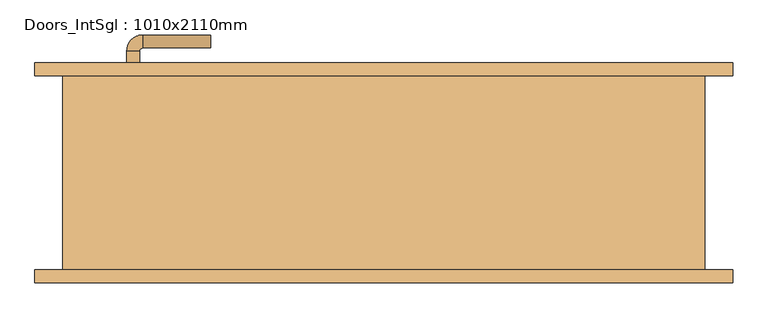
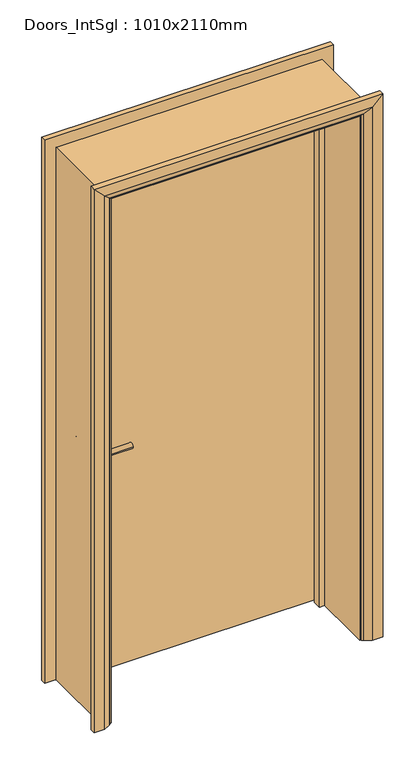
"""IFC4 building model written with IfcOpenShell, lengths in millimetres: door geometry, Doors_IntSgl : 1010x2110mm."""

import ifcopenshell
import ifcopenshell.guid

model = None  # the IFC model being written
_history = None  # IfcOwnerHistory: only IFC2X3 demands one
_inside = {}  # id of a spatial element -> (the spatial element, [elements in it])
_under = {}  # id of a project, library or spatial element -> (it, [spatial elements below it])
_declared = {}  # id of a project -> (the project, [libraries it declares])
_typed = {}  # id of a type object -> (the type object, [elements of that type])
_made_of = {}  # id of a material, layer set ... -> (it, [elements and type objects made of it])


def new_model(schema):
    """Start an empty IFC model of exactly this schema.

    Asked for "IFC4X3", IfcOpenShell would pick the latest addendum, in which some entities
    have other attributes; the version numbers below select the first issue.
    IFC2X3 requires an IfcOwnerHistory on every rooted entity: one is made here for all.
    """
    global model, _history
    if schema == "IFC4X3":
        model = ifcopenshell.file(schema_version=(4, 3, 0, 0))
    else:
        model = ifcopenshell.file(schema=schema)
    _inside.clear()
    _under.clear()
    _declared.clear()
    _typed.clear()
    _made_of.clear()
    _history = None
    if model.schema == "IFC2X3":
        org = make("IfcOrganization", Name="unknown")
        user = make(
            "IfcPersonAndOrganization",
            ThePerson=make("IfcPerson", FamilyName="unknown"),
            TheOrganization=org,
        )
        app = make(
            "IfcApplication",
            ApplicationDeveloper=org,
            Version="unknown",
            ApplicationFullName="unknown",
            ApplicationIdentifier="unknown",
        )
        _history = make(
            "IfcOwnerHistory",
            OwningUser=user,
            OwningApplication=app,
            ChangeAction="ADDED",
            CreationDate=0,
        )
    return model


def make(cls, **values):
    """One entity of the class cls with the attributes given. An attribute that is None is left unset."""
    return model.create_entity(
        cls, **{name: value for name, value in values.items() if value is not None}
    )


def rooted(cls, **values):
    """An entity with a GlobalId (a new one), such as an element, a storey or a relation."""
    return make(cls, GlobalId=ifcopenshell.guid.new(), OwnerHistory=_history, **values)


def si_unit(unit_type, name, prefix=None):
    """IfcSIUnit, for example si_unit("LENGTHUNIT", "METRE", prefix="MILLI")."""
    return make("IfcSIUnit", UnitType=unit_type, Prefix=prefix, Name=name)


def assignment(units):
    """IfcUnitAssignment: the units of a project."""
    return None if units is None else make("IfcUnitAssignment", Units=units)


def point(xyz):
    """IfcCartesianPoint."""
    return None if xyz is None else make("IfcCartesianPoint", Coordinates=xyz)


def direction(xyz):
    """IfcDirection."""
    return None if xyz is None else make("IfcDirection", DirectionRatios=xyz)


def frame(location, z_axis=None, x_axis=None):
    """IfcAxis2Placement3D, a coordinate frame: its origin and axes. An axis left out is left unset."""
    return make(
        "IfcAxis2Placement3D",
        Location=point(location),
        Axis=direction(z_axis),
        RefDirection=direction(x_axis),
    )


def frame_2d(location, x_axis=None):
    """IfcAxis2Placement2D, a coordinate frame in the plane: its origin and x axis."""
    return make(
        "IfcAxis2Placement2D", Location=point(location), RefDirection=direction(x_axis)
    )


def origin():
    """The frame at (0, 0, 0) with its axes left unset."""
    return frame((0.0, 0.0, 0.0))


def place(relative_to, where):
    """IfcLocalPlacement: puts the frame where relative to a parent placement (None: the world)."""
    return make(
        "IfcLocalPlacement", PlacementRelTo=relative_to, RelativePlacement=where
    )


def context(
    kind, dimensions, precision=None, world=None, true_north=None, identifier=None
):
    """IfcGeometricRepresentationContext, for example the 3D "Model" context."""
    return make(
        "IfcGeometricRepresentationContext",
        ContextIdentifier=identifier,
        ContextType=kind,
        CoordinateSpaceDimension=dimensions,
        Precision=precision,
        WorldCoordinateSystem=world,
        TrueNorth=true_north,
    )


def project(units=None, contexts=None):
    """IfcProject with its units and contexts."""
    return rooted(
        "IfcProject",
        Name="project",
        RepresentationContexts=contexts,
        UnitsInContext=assignment(units),
    )


def spatial(cls, under=None, at=None, **own):
    """A site, building, storey or space (cls), placed at a placement, below another one or the project."""
    s = rooted(cls, ObjectPlacement=at, **own)
    if under is not None:
        _under.setdefault(under.id(), (under, []))[1].append(s)
    return s


def polyline(points):
    """IfcPolyline through the points."""
    return make("IfcPolyline", Points=[point(p) for p in points])


def circle_curve(where, radius):
    """IfcCircle in the frame where."""
    return make("IfcCircle", Position=where, Radius=radius)


def ellipse_curve(where, semi_axis1, semi_axis2):
    """IfcEllipse in the frame where."""
    return make(
        "IfcEllipse", Position=where, SemiAxis1=semi_axis1, SemiAxis2=semi_axis2
    )


def trimmed(basis, trim1, trim2, sense, master):
    """IfcTrimmedCurve: the piece of a basis curve between two trims."""
    return make(
        "IfcTrimmedCurve",
        BasisCurve=basis,
        Trim1=trim1,
        Trim2=trim2,
        SenseAgreement=sense,
        MasterRepresentation=master,
    )


def segment(curve, same_sense, transition):
    """IfcCompositeCurveSegment."""
    return make(
        "IfcCompositeCurveSegment",
        Transition=transition,
        SameSense=same_sense,
        ParentCurve=curve,
    )


def composite_curve(segments, self_intersect=None):
    """IfcCompositeCurve: segments joined end to end."""
    return make("IfcCompositeCurve", Segments=segments, SelfIntersect=self_intersect)


def outline(outer, holes=None, kind="AREA"):
    """IfcArbitraryClosedProfileDef: a profile drawn as a closed curve; with holes, ...WithVoids."""
    if holes is None:
        return make("IfcArbitraryClosedProfileDef", ProfileType=kind, OuterCurve=outer)
    return make(
        "IfcArbitraryProfileDefWithVoids",
        ProfileType=kind,
        OuterCurve=outer,
        InnerCurves=holes,
    )


def extrude(swept, where, along, depth):
    """IfcExtrudedAreaSolid: the profile swept, set in the frame where, extruded along a direction by depth."""
    return make(
        "IfcExtrudedAreaSolid",
        SweptArea=swept,
        Position=where,
        ExtrudedDirection=direction(along),
        Depth=depth,
    )


def faces_of(points, faces, orient=None, outer=None):
    """IfcFace entities. A face is a list of loops; a loop is a list of indices into points, from 0.

    orient and outer hold one flag for each loop. By default every Orientation is true, the
    first loop of a face is its IfcFaceOuterBound and the others are IfcFaceBound.
    """
    made = []
    for i, loops in enumerate(faces):
        bounds = []
        for j, loop in enumerate(loops):
            is_outer = j == 0 if outer is None else outer[i][j]
            bounds.append(
                make(
                    "IfcFaceOuterBound" if is_outer else "IfcFaceBound",
                    Bound=make("IfcPolyLoop", Polygon=[points[k] for k in loop]),
                    Orientation=True if orient is None else orient[i][j],
                )
            )
        made.append(make("IfcFace", Bounds=bounds))
    return made


def faceted_brep(points, faces, orient=None, outer=None, voids=None):
    """IfcFacetedBrep: a solid bounded by flat faces; with voids (closed shells), ...WithVoids."""
    shared = [point(p) for p in points]
    hull = make("IfcClosedShell", CfsFaces=faces_of(shared, faces, orient, outer))
    if voids is None:
        return make("IfcFacetedBrep", Outer=hull)
    return make(
        "IfcFacetedBrepWithVoids",
        Outer=hull,
        Voids=[
            make(cls, CfsFaces=faces_of(shared, fs, o, b)) for cls, fs, o, b in voids
        ],
    )


def shape(context_of_items, identifier, shape_type, items):
    """IfcShapeRepresentation: the items that make up one representation, for example the "Body"."""
    return make(
        "IfcShapeRepresentation",
        ContextOfItems=context_of_items,
        RepresentationIdentifier=identifier,
        RepresentationType=shape_type,
        Items=items,
    )


def source(mapping_origin, context_of_items, identifier, shape_type, items):
    """IfcRepresentationMap: a shape defined once, which mapped items show again and again."""
    return make(
        "IfcRepresentationMap",
        MappingOrigin=mapping_origin,
        MappedRepresentation=shape(context_of_items, identifier, shape_type, items),
    )


def transform(
    local_origin,
    x_axis=None,
    y_axis=None,
    z_axis=None,
    scale=None,
    scale2=None,
    scale3=None,
    uniform=True,
):
    """IfcCartesianTransformationOperator3D, or its non-uniform kind. x_axis, y_axis, z_axis: its Axis1, 2, 3."""
    if uniform:
        return make(
            "IfcCartesianTransformationOperator3D",
            Axis1=direction(x_axis),
            Axis2=direction(y_axis),
            LocalOrigin=point(local_origin),
            Scale=scale,
            Axis3=direction(z_axis),
        )
    return make(
        "IfcCartesianTransformationOperator3DnonUniform",
        Axis1=direction(x_axis),
        Axis2=direction(y_axis),
        LocalOrigin=point(local_origin),
        Scale=scale,
        Axis3=direction(z_axis),
        Scale2=scale2,
        Scale3=scale3,
    )


def mapped(mapping_source, mapping_target):
    """IfcMappedItem: shows the shape of a source again, moved by a transform."""
    return make(
        "IfcMappedItem", MappingSource=mapping_source, MappingTarget=mapping_target
    )


def made_of(thing, what):
    """Note that an element or type object is made of a material, layer set ...; save() writes the relation."""
    if what is not None:
        _made_of.setdefault(what.id(), (what, []))[1].append(thing)
    return thing


def element(
    cls,
    number,
    at=None,
    inside=None,
    cuts=None,
    type_object=None,
    material=None,
    context=None,
    identifier="Body",
    shape_type=None,
    held_by="IfcProductDefinitionShape",
    body=None,
    shapes=None,
    **own,
):
    """One element of the class cls, such as IfcWall. Its Tag is "e" and its number.

    at: its placement. inside: the storey or other place that contains it. cuts: it is an
    opening in that element (IfcRelVoidsElement). A single representation is given by context,
    identifier, shape_type and body (its items); several are given by shapes. held_by: the class
    of the entity that holds the representations. save() writes the other relations.
    """
    e = rooted(cls, Tag="e%d" % number, ObjectPlacement=at, **own)
    if body is not None:
        shapes = [shape(context, identifier, shape_type, body)]
    if shapes is not None:
        e.Representation = make(held_by, Representations=shapes)
    if inside is not None:
        _inside.setdefault(inside.id(), (inside, []))[1].append(e)
    if cuts is not None:
        rooted(
            "IfcRelVoidsElement", RelatingBuildingElement=cuts, RelatedOpeningElement=e
        )
    if type_object is not None:
        _typed.setdefault(type_object.id(), (type_object, []))[1].append(e)
    return made_of(e, material)


def aggregate(whole, parts):
    """IfcRelAggregates: a whole, such as a stair, and the parts it consists of."""
    return rooted("IfcRelAggregates", RelatingObject=whole, RelatedObjects=parts)


def save(model, path):
    """Write the relations noted so far, then the file.

    IfcRelAggregates (storeys below a building ...), IfcRelContainedInSpatialStructure (elements
    in a storey), IfcRelDefinesByType, IfcRelAssociatesMaterial and IfcRelDeclares: one each for
    every whole, place, type object, material and project.
    """
    for whole, parts in _under.values():
        aggregate(whole, parts)
    for where, things in _inside.values():
        rooted(
            "IfcRelContainedInSpatialStructure",
            RelatedElements=things,
            RelatingStructure=where,
        )
    for kind, things in _typed.values():
        rooted("IfcRelDefinesByType", RelatedObjects=things, RelatingType=kind)
    for what, things in _made_of.values():
        rooted("IfcRelAssociatesMaterial", RelatedObjects=things, RelatingMaterial=what)
    for by, libraries in _declared.values():
        rooted("IfcRelDeclares", RelatingContext=by, RelatedDefinitions=libraries)
    model.write(path)


def plane_surface(at):
    """IfcPlane: the flat surface through the origin of the frame at, square to its z axis."""
    return make("IfcPlane", Position=at)


def cylinder_surface(at, radius):
    """IfcCylindricalSurface: all points at the distance radius from the z axis of the frame at."""
    return make("IfcCylindricalSurface", Position=at, Radius=radius)


def revolved_surface(curve, axis_point, axis_direction):
    """IfcSurfaceOfRevolution: the curve turned about the line through axis_point along axis_direction."""
    return make(
        "IfcSurfaceOfRevolution",
        SweptCurve=make("IfcArbitraryOpenProfileDef", ProfileType="CURVE", Curve=curve),
        AxisPosition=make("IfcAxis1Placement", Location=point(axis_point), Axis=direction(axis_direction)),
    )


def advanced_brep(points, edges, surfaces, faces):
    """IfcAdvancedBrep: a solid bounded by faces that lie on surfaces and meet in shared edges.

    An edge is (start, end): straight between two places in points (the first is 0);
    or (start, end, curve); or (start, end, curve, False) where it runs against its curve.
    A face is (place in surfaces, loops), or (place, loops, False) where it looks against
    its surface's normal. A loop lists edges by number (the first is 1), with a minus sign
    where the edge is run from its end to its start. The first loop is the outer one.
    """
    corners = [point(p) for p in points]
    vertices = [make("IfcVertexPoint", VertexGeometry=c) for c in corners]
    made = []
    for start, end, *more in edges:
        made.append(
            make(
                "IfcEdgeCurve",
                EdgeStart=vertices[start],
                EdgeEnd=vertices[end],
                EdgeGeometry=more[0] if more else make("IfcPolyline", Points=[corners[start], corners[end]]),
                SameSense=more[1] if len(more) > 1 else True,
            )
        )
    hull = []
    for where, loops, *sense in faces:
        bounds = []
        for j, loop in enumerate(loops):
            ring = [make("IfcOrientedEdge", EdgeElement=made[abs(k) - 1], Orientation=k > 0) for k in loop]
            bounds.append(
                make(
                    "IfcFaceOuterBound" if j == 0 else "IfcFaceBound",
                    Bound=make("IfcEdgeLoop", EdgeList=ring),
                    Orientation=True,
                )
            )
        hull.append(make("IfcAdvancedFace", Bounds=bounds, FaceSurface=surfaces[where], SameSense=sense[0] if sense else True))
    return make("IfcAdvancedBrep", Outer=make("IfcClosedShell", CfsFaces=hull))


def doors_intsgl_1010x2110mm_6139e3f5(model_context):
    return source(origin(), model_context, "Body", "SolidModel", [
        advanced_brep(
        [(-398.0, 104.0, 900.0), (-378.0, 104.0, 900.0), (-378.0, 74.0, 900.0), (-398.0, 74.0, 900.0), (-373.0, 69.0, 900.0), (-373.0, 49.0, 900.0), (-268.0, 49.0, 900.0), (-268.0, 69.0, 900.0)],
        [
            (0, 1, circle_curve(frame((-388.0, 104.0, 900.0), z_axis=(0.0, 1.0, 0.0), x_axis=(1.0, 0.0, 0.0)), 10.0)),
            (1, 0, circle_curve(frame((-388.0, 104.0, 900.0), z_axis=(0.0, 1.0, 0.0), x_axis=(1.0, 0.0, 0.0)), 10.0)),
            (1, 2),
            (2, 3, circle_curve(frame((-388.0, 74.0, 900.0), z_axis=(0.0, 1.0, 0.0), x_axis=(1.0, 0.0, 0.0)), 10.0)),
            (3, 0),
            (3, 2, circle_curve(frame((-388.0, 74.0, 900.0), z_axis=(0.0, 1.0, 0.0), x_axis=(1.0, 0.0, 0.0)), 10.0)),
            (4, 5, circle_curve(frame((-373.0, 59.0, 900.0), z_axis=(-1.0, 0.0, 0.0), x_axis=(0.0, 1.0, 0.0)), 10.0)),
            (5, 3, circle_curve(frame((-373.0, 74.0, 900.0), z_axis=(0.0, 0.0, -1.0), x_axis=(-1.0, 0.0, 0.0)), 25.0)),
            (2, 4, circle_curve(frame((-373.0, 74.0, 900.0), z_axis=(0.0, 0.0, 1.0), x_axis=(-1.0, 0.0, 0.0)), 5.0)),
            (5, 4, circle_curve(frame((-373.0, 59.0, 900.0), z_axis=(-1.0, 0.0, 0.0), x_axis=(0.0, 1.0, 0.0)), 10.0)),
            (6, 7, circle_curve(frame((-268.0, 59.0, 900.0), z_axis=(1.0, 0.0, 0.0), x_axis=(0.0, 1.0, 0.0)), 10.0)),
            (7, 6, circle_curve(frame((-268.0, 59.0, 900.0), z_axis=(1.0, 0.0, 0.0), x_axis=(0.0, 1.0, 0.0)), 10.0)),
            (4, 7),
            (6, 5),
        ],
        [
            plane_surface(frame((-388.0, 104.0, 900.0), z_axis=(0.0, 1.0, 0.0), x_axis=(0.0, 0.0, 1.0))),
            cylinder_surface(frame((-388.0, 104.0, 900.0), z_axis=(0.0, 1.0, 0.0), x_axis=(1.0, 0.0, 0.0)), 10.0),
            revolved_surface(trimmed(ellipse_curve(frame((-388.0, 74.0, 900.0), z_axis=(0.0, -1.0, 0.0), x_axis=(1.0, 0.0, 0.0)), 10.0, 10.0), [point((-398.0, 74.0, 900.0))], [point((-378.0, 74.0, 900.0))], True, "CARTESIAN"), (-373.0, 74.0, 900.0), (0.0, 0.0, -1.0)),
            revolved_surface(trimmed(ellipse_curve(frame((-388.0, 74.0, 900.0), z_axis=(0.0, -1.0, 0.0), x_axis=(1.0, 0.0, 0.0)), 10.0, 10.0), [point((-378.0, 74.0, 900.0))], [point((-398.0, 74.0, 900.0))], True, "CARTESIAN"), (-373.0, 74.0, 900.0), (0.0, 0.0, -1.0)),
            plane_surface(frame((-268.0, 59.0, 900.0), z_axis=(1.0, 0.0, 0.0), x_axis=(0.0, 0.0, 1.0))),
            cylinder_surface(frame((-373.0, 59.0, 900.0), z_axis=(-1.0, 0.0, 0.0), x_axis=(0.0, 1.0, 0.0)), 10.0),
        ],
        [
            (0, [[1, 2]]),
            (1, [[3, 4, 5, -2]]),
            (1, [[-5, 6, -3, -1]]),
            (2, [[7, 8, -4, 9]]),
            (3, [[10, -9, -6, -8]]),
            (4, [[11, 12]]),
            (5, [[13, -11, 14, -7]]),
            (5, [[-14, -12, -13, -10]]),
        ],
    ),
        extrude(outline(composite_curve([segment(trimmed(circle_curve(frame_2d((900.0, -390.5)), 30.0), [point((900.0, -420.5))], [point((900.0, -360.5))], False, "CARTESIAN"), True, "CONTINUOUS"), segment(trimmed(circle_curve(frame_2d((900.0, -390.5)), 30.0), [point((900.0, -360.5))], [point((900.0, -420.5))], False, "CARTESIAN"), True, "CONTINUOUS")], self_intersect=False)), frame((0.0, 104.0, 0.0), z_axis=(0.0, 1.0, 0.0), x_axis=(0.0, 0.0, 1.0)), (0.0, 0.0, 1.0), 8.0),
        advanced_brep(
        [(-398.0, 158.0, 900.0), (-378.0, 158.0, 900.0), (-398.0, 188.0, 900.0), (-378.0, 188.0, 900.0), (-373.0, 193.0, 900.0), (-373.0, 213.0, 900.0), (-268.0, 213.0, 900.0), (-268.0, 193.0, 900.0)],
        [
            (0, 1, circle_curve(frame((-388.0, 158.0, 900.0), z_axis=(0.0, -1.0, 0.0), x_axis=(1.0, 0.0, 0.0)), 10.0)),
            (1, 0, circle_curve(frame((-388.0, 158.0, 900.0), z_axis=(0.0, -1.0, 0.0), x_axis=(1.0, 0.0, 0.0)), 10.0)),
            (0, 2),
            (2, 3, circle_curve(frame((-388.0, 188.0, 900.0), z_axis=(0.0, -1.0, 0.0), x_axis=(1.0, 0.0, 0.0)), 10.0)),
            (3, 1),
            (3, 2, circle_curve(frame((-388.0, 188.0, 900.0), z_axis=(0.0, -1.0, 0.0), x_axis=(1.0, 0.0, 0.0)), 10.0)),
            (4, 3, circle_curve(frame((-373.0, 188.0, 900.0), z_axis=(0.0, 0.0, 1.0), x_axis=(-1.0, 0.0, 0.0)), 5.0)),
            (2, 5, circle_curve(frame((-373.0, 188.0, 900.0), z_axis=(0.0, 0.0, -1.0), x_axis=(-1.0, 0.0, 0.0)), 25.0)),
            (5, 4, circle_curve(frame((-373.0, 203.0, 900.0), z_axis=(-1.0, 0.0, 0.0), x_axis=(0.0, -1.0, 0.0)), 10.0)),
            (4, 5, circle_curve(frame((-373.0, 203.0, 900.0), z_axis=(-1.0, 0.0, 0.0), x_axis=(0.0, -1.0, 0.0)), 10.0)),
            (6, 7, circle_curve(frame((-268.0, 203.0, 900.0), z_axis=(1.0, 0.0, 0.0), x_axis=(0.0, -1.0, 0.0)), 10.0)),
            (7, 6, circle_curve(frame((-268.0, 203.0, 900.0), z_axis=(1.0, 0.0, 0.0), x_axis=(0.0, -1.0, 0.0)), 10.0)),
            (5, 6),
            (7, 4),
        ],
        [
            plane_surface(frame((-388.0, 158.0, 900.0), z_axis=(0.0, -1.0, 0.0), x_axis=(0.0, 0.0, 1.0))),
            cylinder_surface(frame((-388.0, 158.0, 900.0), z_axis=(0.0, -1.0, 0.0), x_axis=(1.0, 0.0, 0.0)), 10.0),
            revolved_surface(trimmed(ellipse_curve(frame((-388.0, 188.0, 900.0), z_axis=(0.0, -1.0, 0.0), x_axis=(1.0, 0.0, 0.0)), 10.0, 10.0), [point((-398.0, 188.0, 900.0))], [point((-378.0, 188.0, 900.0))], True, "CARTESIAN"), (-373.0, 188.0, 900.0), (0.0, 0.0, -1.0)),
            revolved_surface(trimmed(ellipse_curve(frame((-388.0, 188.0, 900.0), z_axis=(0.0, -1.0, 0.0), x_axis=(1.0, 0.0, 0.0)), 10.0, 10.0), [point((-378.0, 188.0, 900.0))], [point((-398.0, 188.0, 900.0))], True, "CARTESIAN"), (-373.0, 188.0, 900.0), (0.0, 0.0, -1.0)),
            plane_surface(frame((-268.0, 203.0, 900.0), z_axis=(1.0, 0.0, 0.0), x_axis=(0.0, 0.0, 1.0))),
            cylinder_surface(frame((-373.0, 203.0, 900.0), z_axis=(-1.0, 0.0, 0.0), x_axis=(0.0, -1.0, 0.0)), 10.0),
        ],
        [
            (0, [[1, 2]]),
            (1, [[-1, 3, 4, 5]]),
            (1, [[-2, -5, 6, -3]]),
            (2, [[7, -4, 8, 9]]),
            (3, [[-8, -6, -7, 10]]),
            (4, [[11, 12]]),
            (5, [[-9, 13, -12, 14]]),
            (5, [[-10, -14, -11, -13]]),
        ],
    ),
        extrude(outline(composite_curve([segment(trimmed(circle_curve(frame_2d((900.0, -390.5)), 30.0), [point((900.0, -420.5))], [point((900.0, -360.5))], False, "CARTESIAN"), True, "CONTINUOUS"), segment(trimmed(circle_curve(frame_2d((900.0, -390.5)), 30.0), [point((900.0, -360.5))], [point((900.0, -420.5))], False, "CARTESIAN"), True, "CONTINUOUS")], self_intersect=False)), frame((0.0, 150.0, 0.0), z_axis=(0.0, 1.0, 0.0), x_axis=(0.0, 0.0, 1.0)), (0.0, 0.0, 1.0), 8.0),
        extrude(outline(polyline([(463.0, 112.0), (-463.0, 112.0), (-463.0, 150.0), (463.0, 150.0), (463.0, 112.0)])), frame((0.0, 0.0, 8.0), z_axis=(0.0, 0.0, 1.0), x_axis=(1.0, 0.0, 0.0)), (0.0, 0.0, 1.0), 2060.0),
        advanced_brep(
        [(540.0, 170.0, 0.0), (540.0, 150.0, 0.0), (470.0, 150.0, 0.0), (474.0, 156.0, 0.0), (500.0, 170.0, 0.0), (540.0, 170.0, 2145.0), (540.0, 150.0, 2145.0), (-540.0, 150.0, 2145.0), (-540.0, 150.0, 0.0), (-470.0, 150.0, 0.0), (-470.0, 150.0, 2075.0), (470.0, 150.0, 2075.0), (474.0, 156.0, 2079.0), (500.0, 170.0, 2105.0), (-500.0, 170.0, 2105.0), (-500.0, 170.0, 0.0), (-540.0, 170.0, 0.0), (-540.0, 170.0, 2145.0), (-474.0, 156.0, 2079.0), (-474.0, 156.0, 0.0)],
        [
            (0, 1),
            (1, 2),
            (2, 3, circle_curve(frame((478.0, 149.0, 0.0), z_axis=(0.0, 0.0, -1.0), x_axis=(1.0, 0.0, 0.0)), 8.0622577)),
            (3, 4),
            (4, 0),
            (0, 5),
            (5, 6),
            (6, 1),
            (6, 7),
            (7, 8),
            (8, 9),
            (9, 10),
            (10, 11),
            (11, 2),
            (11, 12, ellipse_curve(frame((478.0, 149.0, 2083.0), z_axis=(0.7071067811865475, 0.0, -0.7071067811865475), x_axis=(-0.7071067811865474, 0.0, -0.7071067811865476)), 11.4017543, 8.0622577)),
            (12, 3),
            (12, 13),
            (13, 4),
            (13, 14),
            (14, 15),
            (15, 16),
            (16, 17),
            (17, 5),
            (17, 7),
            (10, 18, ellipse_curve(frame((-478.0, 149.0, 2083.0), z_axis=(0.7071067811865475, 0.0, 0.7071067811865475), x_axis=(0.7071067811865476, 0.0, -0.7071067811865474)), 11.4017543, 8.0622577)),
            (18, 12),
            (18, 14),
            (15, 19),
            (19, 9, circle_curve(frame((-478.0, 149.0, 0.0), z_axis=(0.0, 0.0, -1.0), x_axis=(-1.0, 0.0, 0.0)), 8.0622577)),
            (8, 16),
            (19, 18),
        ],
        [
            plane_surface(frame((470.0, 150.0, 0.0), z_axis=(0.0, 0.0, -1.0), x_axis=(0.0, -1.0, 0.0))),
            plane_surface(frame((540.0, 170.0, 0.0), z_axis=(1.0, 0.0, 0.0), x_axis=(0.0, 0.0, 1.0))),
            plane_surface(frame((540.0, 150.0, 0.0), z_axis=(0.0, -1.0, 0.0), x_axis=(0.0, 0.0, 1.0))),
            cylinder_surface(frame((478.0, 149.0, 0.0), z_axis=(0.0, 0.0, -1.0), x_axis=(1.0, 0.0, 0.0)), 8.0622577),
            plane_surface(frame((474.0, 156.0, 0.0), z_axis=(-0.4740998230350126, 0.880471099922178, 0.0), x_axis=(0.0, 0.0, 1.0))),
            plane_surface(frame((500.0, 170.0, 0.0), z_axis=(0.0, 1.0, 0.0), x_axis=(0.0, 0.0, 1.0))),
            plane_surface(frame((540.0, 170.0, 2145.0), z_axis=(0.0, 0.0, 1.0), x_axis=(-1.0, 0.0, 0.0))),
            cylinder_surface(frame((470.0, 149.0, 2083.0), z_axis=(1.0, 0.0, 0.0), x_axis=(0.0, 0.0, 1.0)), 8.0622577),
            plane_surface(frame((474.0, 156.0, 2079.0), z_axis=(0.0, 0.8804710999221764, -0.4740998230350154), x_axis=(-1.0, 0.0, 0.0))),
            plane_surface(frame((-470.0, 150.0, 0.0), z_axis=(0.0, 0.0, -1.0), x_axis=(0.0, -1.0, 0.0))),
            plane_surface(frame((-540.0, 170.0, 2145.0), z_axis=(-1.0, 0.0, 0.0), x_axis=(0.0, 0.0, -1.0))),
            cylinder_surface(frame((-478.0, 149.0, 2075.0), z_axis=(0.0, 0.0, 1.0), x_axis=(-1.0, 0.0, 0.0)), 8.0622577),
            plane_surface(frame((-474.0, 156.0, 2079.0), z_axis=(0.47409982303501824, 0.8804710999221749, 0.0), x_axis=(0.0, 0.0, -1.0))),
        ],
        [
            (0, [[1, 2, 3, 4, 5]]),
            (1, [[-1, 6, 7, 8]]),
            (2, [[-2, -8, 9, 10, 11, 12, 13, 14]]),
            (3, [[-3, -14, 15, 16]]),
            (4, [[-4, -16, 17, 18]]),
            (5, [[-5, -18, 19, 20, 21, 22, 23, -6]]),
            (6, [[-7, -23, 24, -9]]),
            (7, [[-15, -13, 25, 26]]),
            (8, [[-17, -26, 27, -19]]),
            (9, [[-21, 28, 29, -11, 30]]),
            (10, [[-24, -22, -30, -10]]),
            (11, [[-25, -12, -29, 31]]),
            (12, [[-27, -31, -28, -20]]),
        ],
    ),
        extrude(outline(polyline([(0.0, -465.0), (0.0, -446.0), (2051.0, -446.0), (2051.0, 446.0), (0.0, 446.0), (0.0, 465.0), (2070.0, 465.0), (2070.0, -465.0), (0.0, -465.0)])), frame((0.0, 78.0, 0.0), z_axis=(0.0, 1.0, 0.0), x_axis=(0.0, 0.0, 1.0)), (0.0, 0.0, 1.0), 32.0),
        advanced_brep(
        [(-540.0, -170.0, 0.0), (-540.0, -150.0, 0.0), (-470.0, -150.0, 0.0), (-474.0, -156.0, 0.0), (-500.0, -170.0, 0.0), (-540.0, -170.0, 2145.0), (-540.0, -150.0, 2145.0), (-470.0, -150.0, 2075.0), (-474.0, -156.0, 2079.0), (-500.0, -170.0, 2105.0), (540.0, -170.0, 2145.0), (540.0, -150.0, 2145.0), (470.0, -150.0, 2075.0), (474.0, -156.0, 2079.0), (500.0, -170.0, 2105.0), (540.0, -170.0, 0.0), (500.0, -170.0, 0.0), (474.0, -156.0, 0.0), (470.0, -150.0, 0.0), (540.0, -150.0, 0.0)],
        [
            (0, 1),
            (1, 2),
            (2, 3, circle_curve(frame((-478.0, -149.0, 0.0), z_axis=(0.0, 0.0, -1.0), x_axis=(-1.0, 0.0, 0.0)), 8.0622577)),
            (3, 4),
            (4, 0),
            (0, 5),
            (5, 6),
            (6, 1),
            (6, 7),
            (7, 2),
            (7, 8, ellipse_curve(frame((-478.0, -149.0, 2083.0), z_axis=(-0.7071067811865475, 0.0, -0.7071067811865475), x_axis=(0.7071067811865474, 0.0, -0.7071067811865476)), 11.4017543, 8.0622577)),
            (8, 3),
            (8, 9),
            (9, 4),
            (9, 5),
            (5, 10),
            (10, 11),
            (11, 6),
            (11, 12),
            (12, 7),
            (12, 13, ellipse_curve(frame((478.0, -149.0, 2083.0), z_axis=(-0.7071067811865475, 0.0, 0.7071067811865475), x_axis=(-0.7071067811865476, 0.0, -0.7071067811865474)), 11.4017543, 8.0622577)),
            (13, 8),
            (13, 14),
            (14, 9),
            (14, 10),
            (15, 16),
            (16, 17),
            (17, 18, circle_curve(frame((478.0, -149.0, 0.0), z_axis=(0.0, 0.0, -1.0), x_axis=(1.0, 0.0, 0.0)), 8.0622577)),
            (18, 19),
            (19, 15),
            (10, 15),
            (19, 11),
            (18, 12),
            (17, 13),
            (16, 14),
        ],
        [
            plane_surface(frame((-470.0, -222.8010989, 0.0), z_axis=(0.0, 0.0, -1.0), x_axis=(1.0, 0.0, 0.0))),
            plane_surface(frame((-540.0, -170.0, 0.0), z_axis=(-1.0, 0.0, 0.0), x_axis=(0.0, 0.0, 1.0))),
            plane_surface(frame((-540.0, -150.0, 0.0), z_axis=(0.0, 1.0, 0.0), x_axis=(0.0, 0.0, 1.0))),
            cylinder_surface(frame((-478.0, -149.0, 0.0), z_axis=(0.0, 0.0, -1.0), x_axis=(-1.0, 0.0, 0.0)), 8.0622577),
            plane_surface(frame((-474.0, -156.0, 0.0), z_axis=(0.4740998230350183, -0.8804710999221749, 0.0), x_axis=(0.0, 0.0, 1.0))),
            plane_surface(frame((-500.0, -170.0, 0.0), z_axis=(0.0, -1.0, 0.0), x_axis=(0.0, 0.0, 1.0))),
            plane_surface(frame((-540.0, -170.0, 2145.0), z_axis=(0.0, 0.0, 1.0), x_axis=(1.0, 0.0, 0.0))),
            plane_surface(frame((-540.0, -150.0, 2145.0), z_axis=(0.0, 1.0, 0.0), x_axis=(1.0, 0.0, 0.0))),
            cylinder_surface(frame((-470.0, -149.0, 2083.0), z_axis=(-1.0, 0.0, 0.0), x_axis=(0.0, 0.0, 1.0)), 8.0622577),
            plane_surface(frame((-474.0, -156.0, 2079.0), z_axis=(0.0, -0.8804710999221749, -0.4740998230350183), x_axis=(1.0, 0.0, 0.0))),
            plane_surface(frame((-500.0, -170.0, 2105.0), z_axis=(0.0, -1.0, 0.0), x_axis=(1.0, 0.0, 0.0))),
            plane_surface(frame((470.0, -222.8010989, 0.0), z_axis=(0.0, 0.0, -1.0), x_axis=(-1.0, 0.0, 0.0))),
            plane_surface(frame((540.0, -170.0, 2145.0), z_axis=(1.0, 0.0, 0.0), x_axis=(0.0, 0.0, -1.0))),
            plane_surface(frame((540.0, -150.0, 2145.0), z_axis=(0.0, 1.0, 0.0), x_axis=(0.0, 0.0, -1.0))),
            cylinder_surface(frame((478.0, -149.0, 2075.0), z_axis=(0.0, 0.0, 1.0), x_axis=(1.0, 0.0, 0.0)), 8.0622577),
            plane_surface(frame((474.0, -156.0, 2079.0), z_axis=(-0.4740998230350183, -0.8804710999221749, 0.0), x_axis=(0.0, 0.0, -1.0))),
            plane_surface(frame((500.0, -170.0, 2105.0), z_axis=(0.0, -1.0, 0.0), x_axis=(0.0, 0.0, -1.0))),
        ],
        [
            (0, [[1, 2, 3, 4, 5]]),
            (1, [[-1, 6, 7, 8]]),
            (2, [[-2, -8, 9, 10]]),
            (3, [[-3, -10, 11, 12]]),
            (4, [[-4, -12, 13, 14]]),
            (5, [[-5, -14, 15, -6]]),
            (6, [[-7, 16, 17, 18]]),
            (7, [[-9, -18, 19, 20]]),
            (8, [[-11, -20, 21, 22]]),
            (9, [[-13, -22, 23, 24]]),
            (10, [[-15, -24, 25, -16]]),
            (11, [[26, 27, 28, 29, 30]]),
            (12, [[-17, 31, -30, 32]]),
            (13, [[-19, -32, -29, 33]]),
            (14, [[-21, -33, -28, 34]]),
            (15, [[-23, -34, -27, 35]]),
            (16, [[-25, -35, -26, -31]]),
        ],
    ),
        faceted_brep([(-465.0, 150.0, 0.0), (-465.0, -150.0, 0.0), (-497.0, -150.0, 0.0), (-497.0, 150.0, 0.0), (-465.0, 150.0, 2070.0), (-465.0, -150.0, 2070.0), (-497.0, -150.0, 2102.0), (-497.0, 150.0, 2102.0), (465.0, 150.0, 2070.0), (465.0, -150.0, 2070.0), (497.0, -150.0, 2102.0), (497.0, 150.0, 2102.0), (465.0, 150.0, 0.0), (497.0, 150.0, 0.0), (497.0, -150.0, 0.0), (465.0, -150.0, 0.0)], [[[0, 1, 2, 3]], [[1, 0, 4, 5]], [[2, 1, 5, 6]], [[3, 2, 6, 7]], [[0, 3, 7, 4]], [[5, 4, 8, 9]], [[6, 5, 9, 10]], [[7, 6, 10, 11]], [[4, 7, 11, 8]], [[12, 13, 14, 15]], [[9, 8, 12, 15]], [[10, 9, 15, 14]], [[11, 10, 14, 13]], [[8, 11, 13, 12]]]),
    ])


if __name__ == "__main__":
    model = new_model("IFC4")
    model_context = context("Model", 3, world=origin())
    ifc_project = project(units=[si_unit("LENGTHUNIT", "METRE", prefix="MILLI")], contexts=[model_context])
    site = spatial("IfcSite", under=ifc_project)
    building = spatial("IfcBuilding", under=site)
    placement = place(None, origin())
    doors_intsgl_1010x2110mm_shape = doors_intsgl_1010x2110mm_6139e3f5(model_context)
    element("IfcDoor", 1, ObjectType="Doors_IntSgl : 1010x2110mm", at=placement, inside=building, context=model_context, shape_type="MappedRepresentation", body=[
        mapped(doors_intsgl_1010x2110mm_shape, transform((0.0, 0.0, 0.0), x_axis=(1.0, 0.0, 0.0), y_axis=(0.0, 1.0, 0.0), z_axis=(0.0, 0.0, 1.0))),
    ])
    save(model, "model.ifc")
